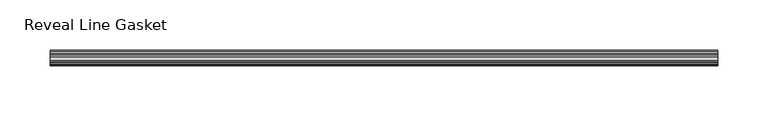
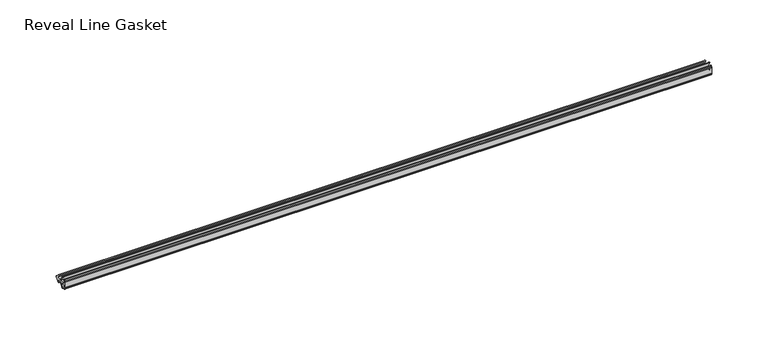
"""IFC4 building model written with IfcOpenShell, lengths in millimetres: proxy geometry, Accessories-Teknion-FHGR-AI_Healthcare-Reveal_Line_Gasket(Horizontal)-R2022 : Reveal Line Gasket."""

from ifc_helpers import new_model, si_unit, point, frame, frame_2d, origin, place, context, project, spatial, polyline, circle_curve, trimmed, segment, composite_curve, outline, extrude, source, transform, mapped, element, save


def reveal_line_gasket_9f5ffe88(model_context):
    return source(origin(), model_context, "Body", "SweptSolid", [
        extrude(outline(composite_curve([segment(polyline([(-7.6326998, 1603.2), (-7.4091917, 1604.1554927), (-6.8813059, 1605.0884684)]), True, "CONTINUOUS"), segment(trimmed(circle_curve(frame_2d((-6.5243141, 1604.8864793)), 0.4101739), [point((-6.8813059, 1605.0884684))], [point((-6.1246704, 1604.7941347))], False, "CARTESIAN"), True, "CONTINUOUS"), segment(polyline([(-6.1246704, 1604.7941347), (-6.3626997, 1603.0979086), (-6.3626997, 1601.0654527)]), True, "CONTINUOUS"), segment(trimmed(circle_curve(frame_2d((-5.6959605, 1601.4819258)), 0.786124), [point((-6.3626997, 1601.0654527))], [point((-5.0926996, 1600.977875))], True, "CARTESIAN"), True, "CONTINUOUS"), segment(polyline([(-5.0926996, 1600.977875), (-0.7492996, 1600.977875), (-3.7293824, 1606.1395295)]), True, "CONTINUOUS"), segment(trimmed(circle_curve(frame_2d((-3.3132479, 1606.2049761)), 0.4212495), [point((-3.7293824, 1606.1395295))], [point((-3.0485022, 1606.5326358))], False, "CARTESIAN"), True, "CONTINUOUS"), segment(polyline([(-3.0485022, 1606.5326358), (0.5742594, 1600.977875), (4.8262978, 1600.977875), (3.1660374, 1603.8535297)]), True, "CONTINUOUS"), segment(trimmed(circle_curve(frame_2d((3.5978728, 1603.9118855)), 0.4357605), [point((3.1660374, 1603.8535297))], [point((3.864328, 1604.2566881))], False, "CARTESIAN"), True, "CONTINUOUS"), segment(polyline([(3.864328, 1604.2566881), (6.1944059, 1600.977875), (7.6326998, 1600.977875), (7.6326998, 1599.422125), (6.1944059, 1599.422125), (3.864328, 1596.1433119)]), True, "CONTINUOUS"), segment(trimmed(circle_curve(frame_2d((3.5978728, 1596.4881145)), 0.4357605), [point((3.864328, 1596.1433119))], [point((3.1660374, 1596.5464703))], False, "CARTESIAN"), True, "CONTINUOUS"), segment(polyline([(3.1660374, 1596.5464703), (4.8262978, 1599.422125), (0.5742594, 1599.422125), (-3.0485022, 1593.8673642)]), True, "CONTINUOUS"), segment(trimmed(circle_curve(frame_2d((-3.3132479, 1594.1950239)), 0.4212495), [point((-3.0485022, 1593.8673642))], [point((-3.7293824, 1594.2604705))], False, "CARTESIAN"), True, "CONTINUOUS"), segment(polyline([(-3.7293824, 1594.2604705), (-0.7492996, 1599.422125), (-5.0926996, 1599.422125)]), True, "CONTINUOUS"), segment(trimmed(circle_curve(frame_2d((-5.6959605, 1598.9180742)), 0.786124), [point((-5.0926996, 1599.422125))], [point((-6.3626997, 1599.3345473))], True, "CARTESIAN"), True, "CONTINUOUS"), segment(polyline([(-6.3626997, 1599.3345473), (-6.3626997, 1597.3020914), (-6.1246704, 1595.6058653)]), True, "CONTINUOUS"), segment(trimmed(circle_curve(frame_2d((-6.5243141, 1595.5135207)), 0.4101739), [point((-6.1246704, 1595.6058653))], [point((-6.8813059, 1595.3115316))], False, "CARTESIAN"), True, "CONTINUOUS"), segment(polyline([(-6.8813059, 1595.3115316), (-7.4091917, 1596.2445073), (-7.6326998, 1597.2), (-7.6326998, 1603.2)]), True, "CONTINUOUS")], self_intersect=False)), frame((-332.4603284, 0.0, 0.0), z_axis=(1.0, 0.0, 0.0), x_axis=(0.0, 1.0, 0.0)), (0.0, 0.0, 1.0), 664.9206568),
    ])


if __name__ == "__main__":
    model = new_model("IFC4")
    model_context = context("Model", 3, world=origin())
    ifc_project = project(units=[si_unit("LENGTHUNIT", "METRE", prefix="MILLI")], contexts=[model_context])
    site = spatial("IfcSite", under=ifc_project)
    building = spatial("IfcBuilding", under=site)
    placement = place(None, origin())
    reveal_line_gasket_shape = reveal_line_gasket_9f5ffe88(model_context)
    element("IfcBuildingElementProxy", 1, Name="Accessories-Teknion-FHGR-AI_Healthcare-Reveal_Line_Gasket(Horizontal)-R2022 : Reveal Line Gasket", ObjectType="Accessories-Teknion-FHGR-AI_Healthcare-Reveal_Line_Gasket(Horizontal)-R2022 : Reveal Line Gasket", at=placement, inside=building, context=model_context, shape_type="MappedRepresentation", body=[
        mapped(reveal_line_gasket_shape, transform((0.0, 0.0, 0.0), x_axis=(1.0, 0.0, 0.0), y_axis=(0.0, 1.0, 0.0), z_axis=(0.0, 0.0, 1.0))),
    ])
    save(model, "model.ifc")
